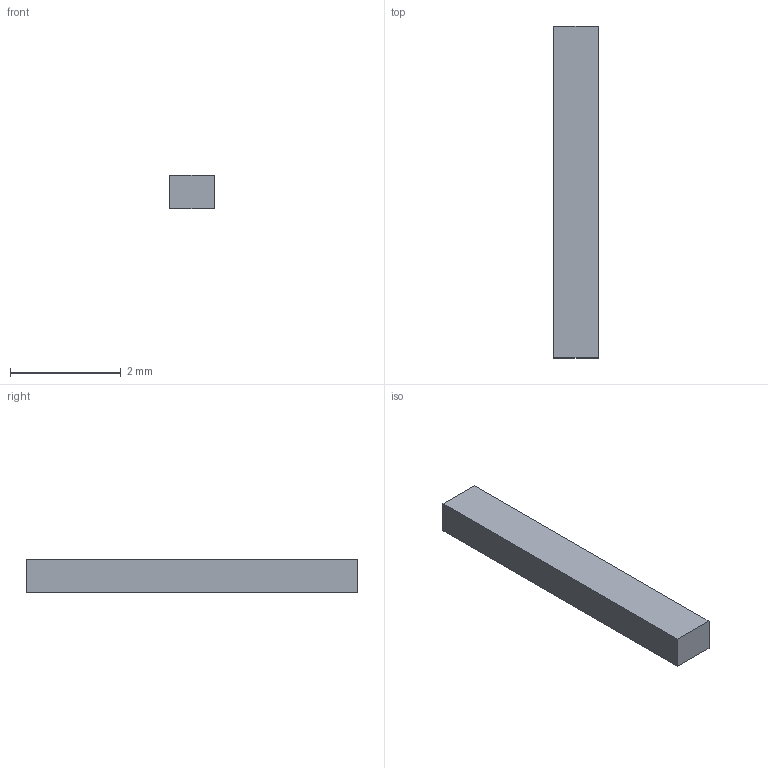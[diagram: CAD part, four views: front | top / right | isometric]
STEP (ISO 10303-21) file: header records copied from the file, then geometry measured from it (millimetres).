
FILE_DESCRIPTION(/* description */ (''),/* implementation_level */ '2;1');
FILE_NAME(/* name */ 'C27_R2_LTE_Soft_Stop_1_1.step',/* time_stamp */ '2026-09-10T17:49:32-07:00',/* author */ (''),/* organization */ (''),/* preprocessor_version */ 'ST-DEVELOPER v20.1',/* originating_system */ 'Autodesk Translation Framework v15.8.0.0',/* authorisation */ '');
FILE_SCHEMA (('AUTOMOTIVE_DESIGN { 1 0 10303 214 3 1 1 }'));
Length unit declared in the file: millimetre
Products named in the file (1): 2026-09-10-17-49-32-486
Bounding box: 0.8 x 6 x 0.6 mm (x, y, z)
Volume: 2.9 mm3; surface area: 17.8 mm2
Topology: 1 solids, 1 shells, 6 faces, 12 edges, 8 vertices
Faces by surface type: plane 6
Entity records: 189 total; most frequent: CARTESIAN_POINT 27, DIRECTION 26, ORIENTED_EDGE 24, LINE 12, VECTOR 12, EDGE_CURVE 12, VERTEX_POINT 8, AXIS2_PLACEMENT_3D 7
